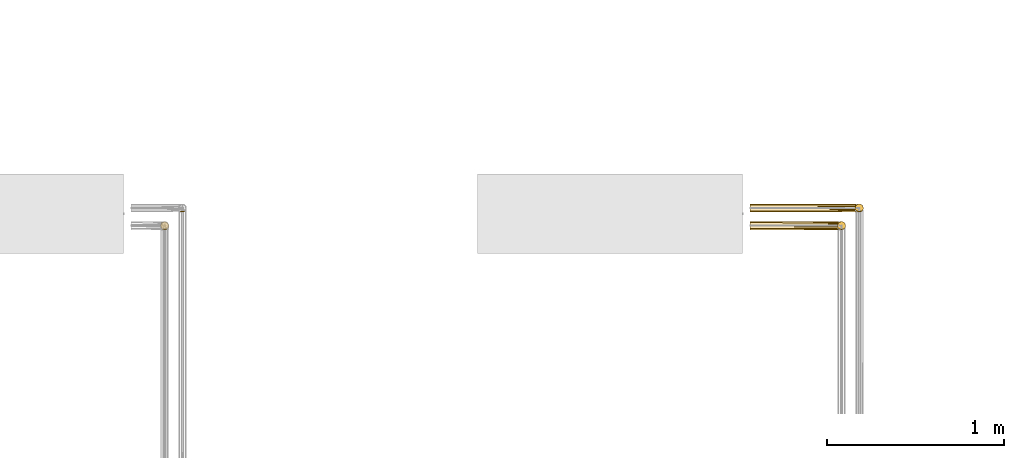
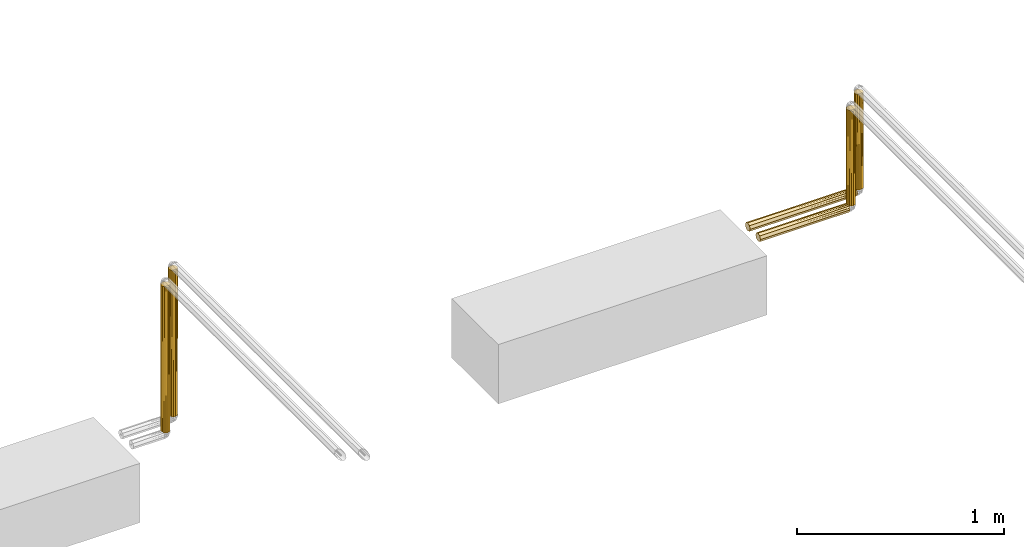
# One storey, part 226 of 652: 6 coverings.
"""IFC2X3 building model written with IfcOpenShell, lengths in millimetres."""

from ifc_helpers import new_model, entity, si_unit, converted_unit, direction, frame, origin, place, context, subcontext, project, spatial, faceted_brep, material, type_object, element, save


model = new_model("IFC2X3")

# Units and contexts
model_context = context("Model", 3, precision=0.01, world=frame((0.0, 0.0, 308426.39999999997)), true_north=direction((6.123233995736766e-17, 1.0)))
plan_context = context("Plan", 3, precision=0.01, world=frame((0.0, 0.0, 308426.39999999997)), true_north=direction((6.123233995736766e-17, 1.0)))
body_context = subcontext(model_context, "Body", "Model", "MODEL_VIEW")
ifc_project = project(units=[si_unit("LENGTHUNIT", "METRE", prefix="MILLI"), si_unit("AREAUNIT", "SQUARE_METRE"), si_unit("VOLUMEUNIT", "CUBIC_METRE"), converted_unit("PLANEANGLEUNIT", "DEGREE", entity("IfcPlaneAngleMeasure", 0.017453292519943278), si_unit("PLANEANGLEUNIT", "RADIAN"), dimensions=[0, 0, 0, 0, 0, 0, 0])], contexts=[model_context, plan_context])

# Site, building, storey
site_placement = place(None, origin())
site = spatial("IfcSite", under=ifc_project, at=site_placement, Name="Default", CompositionType="ELEMENT")
building_placement = place(site_placement, origin())
building = spatial("IfcBuilding", under=site, at=building_placement, CompositionType="ELEMENT")
storey_placement = place(building_placement, frame((0.0, 0.0, 1730.6999999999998)))
storey = spatial("IfcBuildingStorey", under=building, at=storey_placement, Name="EG_Produktion_FFB", CompositionType="ELEMENT", Elevation=1730.6999999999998)

# Coverings
ifc_material = material(Name="Dämmung - Armaflex-Schlauch")
covering_type = type_object("IfcCoveringType", Name="Rohrdämmung außen:Armaflex-Schlauch", PredefinedType="INSULATION")
covering_1_placement = place(storey_placement, frame((58641.246433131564, 79829.64488314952, 2674.6422277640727)))
element("IfcCovering", 1, at=covering_1_placement, inside=storey, type_object=covering_type, material=ifc_material, Name="Rohrdämmung außen:Armaflex-Schlauch", ObjectType="Rohrdämmung außen:Armaflex-Schlauch", PredefinedType="INSULATION", context=body_context, shape_type="Brep", body=[
    faceted_brep([(500.80331687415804, 25.35777223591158, 1.595272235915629), (500.80331687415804, 30.433998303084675, 3.697913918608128), (500.80331687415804, 33.759084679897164, 5.075209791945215), (500.80331687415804, 37.95974090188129, 6.815178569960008), (500.80331687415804, 42.160397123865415, 8.55514734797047), (500.80331687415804, 43.90036590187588, 12.75580356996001), (500.80331687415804, 45.64033467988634, 16.95645979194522), (500.80331687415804, 47.3803034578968, 21.15711601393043), (500.80331687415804, 49.12027223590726, 25.35777223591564), (500.80331687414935, 48.047093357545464, 30.292313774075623), (500.80331687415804, 46.97391447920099, 35.22685531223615), (500.80331687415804, 43.95116498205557, 39.26743877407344), (500.80331687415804, 40.92841548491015, 43.308022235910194), (500.80331687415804, 9.787128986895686, 43.30802223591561), (500.80331687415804, 6.764379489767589, 39.26743877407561), (500.80331687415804, 3.7416299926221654, 35.22685531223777), (500.80331687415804, 2.6684511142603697, 30.292313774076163), (500.80331687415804, 1.5952722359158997, 25.35777223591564), (500.8033168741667, 3.3352410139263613, 21.15711601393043), (500.80331687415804, 5.075209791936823, 16.95645979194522), (500.8033168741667, 6.815178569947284, 12.75580356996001), (500.80331687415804, 8.555147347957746, 8.55514734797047), (500.80331687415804, 12.755803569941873, 6.815178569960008), (500.80331687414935, 16.956459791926, 5.075209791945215), (500.80331687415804, 21.157116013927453, 3.335241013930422), (0.0, 37.95974090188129, 6.8151785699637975), (0.0, 33.759084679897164, 5.075209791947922), (0.0, 29.558428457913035, 3.335241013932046), (0.0, 25.35777223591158, 1.595272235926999), (0.0, 20.281546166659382, 3.6979139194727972), (0.0, 15.205320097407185, 5.800555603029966), (0.0, 8.555147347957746, 8.555147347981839), (0.0, 6.815178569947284, 12.75580356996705), (0.0, 5.075209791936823, 16.956459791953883), (0.0, 3.3352410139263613, 21.157116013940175), (0.0, 1.5952722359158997, 25.357772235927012), (0.0, 3.697913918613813, 30.43399830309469), (0.0, 5.075209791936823, 33.75908467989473), (0.0, 6.81517856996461, 37.95974090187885), (0.0, 8.555147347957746, 42.16039712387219), (0.0, 12.755803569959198, 43.90036590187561), (0.0, 16.956459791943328, 45.640334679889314), (0.0, 21.157116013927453, 47.380303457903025), (0.0, 25.35777223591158, 49.120272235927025), (0.0, 29.558428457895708, 47.380303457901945), (0.0, 33.759084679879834, 45.640334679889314), (0.0, 37.95974090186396, 43.90036590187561), (0.0, 42.160397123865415, 42.16039712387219), (0.0, 43.90036590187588, 37.95974090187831), (0.0, 45.64033467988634, 33.75908467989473), (0.0, 47.3803034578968, 29.558428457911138), (0.0, 49.12027223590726, 25.357772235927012), (0.0, 47.01763055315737, 20.281546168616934), (0.0, 44.91498887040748, 15.20532010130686), (0.0, 42.160397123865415, 8.555147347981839), (495.74128355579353, 29.512793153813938, 48.370055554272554), (498.6474085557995, 37.29811477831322, 45.46393055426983), (496.49150023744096, 33.66781407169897, 47.61983887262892), (494.99106687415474, 25.35777223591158, 49.12027223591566), (495.74128355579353, 21.202751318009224, 48.370055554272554), (496.49150023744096, 17.04773040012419, 47.61983887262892), (498.6474085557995, 13.41742969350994, 45.46393055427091)], [[[0, 1, 2, 3, 4, 5, 6, 7, 8, 9, 10, 11, 12, 13, 14, 15, 16, 17, 18, 19, 20, 21, 22, 23, 24]], [[25, 26, 27, 28, 29, 30, 31, 32, 33, 34, 35, 36, 37, 38, 39, 40, 41, 42, 43, 44, 45, 46, 47, 48, 49, 50, 51, 52, 53, 54]], [[33, 32, 31, 21, 20, 19, 18, 17, 35, 34]], [[31, 30, 29, 28, 0, 24, 23, 22, 21]], [[51, 8, 7, 6, 5, 4, 54, 53, 52]], [[3, 2, 1, 0, 28, 27, 26, 25, 54, 4]], [[11, 48, 47]], [[51, 50, 8]], [[49, 10, 9]], [[49, 48, 10]], [[43, 55, 44]], [[12, 46, 56]], [[57, 45, 44]], [[9, 50, 49]], [[45, 57, 56]], [[10, 48, 11]], [[55, 57, 44]], [[8, 50, 9]], [[47, 12, 11]], [[58, 55, 43]], [[46, 12, 47]], [[46, 45, 56]], [[43, 59, 58]], [[16, 37, 36, 35]], [[59, 43, 42]], [[60, 41, 61]], [[14, 39, 38]], [[39, 14, 13]], [[37, 16, 15]], [[13, 40, 39]], [[41, 60, 42]], [[13, 61, 40]], [[38, 15, 14]], [[38, 37, 15]], [[42, 60, 59]], [[35, 17, 16]], [[61, 41, 40]], [[60, 61, 13, 12, 56, 57, 55, 58, 59]]]),
])
covering_2_placement = place(storey_placement, frame((58641.24643313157, 79929.64488314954, 2725.357772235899)))
element("IfcCovering", 2, at=covering_2_placement, inside=storey, type_object=covering_type, material=ifc_material, Name="Rohrdämmung außen:Armaflex-Schlauch", ObjectType="Rohrdämmung außen:Armaflex-Schlauch", PredefinedType="INSULATION", context=body_context, shape_type="Brep", body=[
    faceted_brep([(600.8033168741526, 25.35777223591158, -49.120272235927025), (600.8033168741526, 29.589091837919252, -47.36760227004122), (600.8033168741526, 33.759084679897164, -45.640334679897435), (600.8033168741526, 37.95974090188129, -43.900365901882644), (600.8033168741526, 42.160397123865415, -42.16039712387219), (600.8033168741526, 43.90036590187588, -37.95974090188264), (600.8033168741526, 45.64033467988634, -33.759084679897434), (600.8033168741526, 47.367602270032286, -29.589091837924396), (600.8033168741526, 49.12027223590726, -25.357772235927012), (600.8033168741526, 48.047093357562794, -20.42323069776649), (600.8033168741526, 46.97391447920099, -15.488689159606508), (600.8033168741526, 43.95116498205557, -11.448105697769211), (600.8033168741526, 40.92841548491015, -7.407522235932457), (600.8033168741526, 9.787128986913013, -7.407522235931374), (600.8033168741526, 6.764379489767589, -11.448105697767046), (600.8033168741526, 3.7416299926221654, -15.488689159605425), (600.8033168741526, 2.6684511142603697, -20.42323069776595), (600.8033168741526, 1.5952722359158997, -25.357772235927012), (600.8033168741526, 3.3352410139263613, -29.55842845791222), (600.8033168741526, 5.075209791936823, -33.759084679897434), (600.8033168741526, 6.815178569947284, -37.95974090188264), (600.8033168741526, 8.555147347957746, -42.16039712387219), (600.8033168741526, 12.755803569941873, -43.900365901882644), (600.8033168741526, 16.956459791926, -45.640334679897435), (600.8033168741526, 21.12645263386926, -47.36760227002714), (0.0, 37.95974090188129, -43.90036590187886), (0.0, 33.759084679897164, -45.64033467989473), (0.0, 29.558428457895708, -47.38030345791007), (0.0, 25.35777223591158, -49.12027223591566), (0.0, 21.12645263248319, -47.36760226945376), (0.0, 16.895133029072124, -45.614932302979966), (0.0, 12.725140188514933, -43.88766471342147), (0.0, 8.555147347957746, -42.16039712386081), (0.0, 6.815178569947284, -37.959740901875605), (0.0, 5.075209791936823, -33.759084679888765), (0.0, 3.3352410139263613, -29.558428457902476), (0.0, 1.5952722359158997, -25.35777223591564), (0.0, 3.3479422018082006, -21.126452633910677), (0.0, 5.075209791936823, -16.95645979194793), (0.0, 6.81517856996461, -12.7558035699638), (0.0, 8.555147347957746, -8.55514734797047), (0.0, 12.755803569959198, -6.815178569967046), (0.0, 16.956459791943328, -5.075209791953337), (0.0, 21.157116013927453, -3.3352410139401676), (0.0, 25.35777223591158, -1.595272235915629), (0.0, 29.558428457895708, -3.3352410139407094), (0.0, 33.759084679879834, -5.075209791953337), (0.0, 37.95974090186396, -6.815178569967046), (0.0, 42.160397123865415, -8.55514734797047), (0.0, 43.90036590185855, -12.755803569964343), (0.0, 45.64033467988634, -16.95645979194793), (0.0, 47.3803034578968, -21.157116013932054), (0.0, 49.12027223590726, -25.35777223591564), (0.0, 47.36760226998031, -29.58909183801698), (0.0, 45.614932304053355, -33.82041144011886), (0.0, 43.88766471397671, -37.99040428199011), (0.0, 42.160397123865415, -42.16039712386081), (595.7412835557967, 29.512793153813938, -2.3454889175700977), (598.6474085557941, 37.29811477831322, -5.2516139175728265), (596.4915002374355, 33.66781407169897, -3.095705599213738), (594.9910668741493, 25.35777223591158, -1.595272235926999), (595.7412835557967, 21.202751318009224, -2.3454889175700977), (596.4915002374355, 17.04773040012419, -3.095705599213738), (598.6474085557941, 13.41742969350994, -5.251613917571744)], [[[0, 1, 2, 3, 4, 5, 6, 7, 8, 9, 10, 11, 12, 13, 14, 15, 16, 17, 18, 19, 20, 21, 22, 23, 24]], [[25, 26, 27, 28, 29, 30, 31, 32, 33, 34, 35, 36, 37, 38, 39, 40, 41, 42, 43, 44, 45, 46, 47, 48, 49, 50, 51, 52, 53, 54, 55, 56]], [[34, 33, 32, 21, 20, 19, 18, 17, 36, 35]], [[21, 32, 31, 30, 29, 28, 0, 24, 23, 22]], [[0, 28, 27, 26, 25, 56, 4, 3, 2, 1]], [[4, 56, 55, 54, 53, 52, 8, 7, 6, 5]], [[11, 49, 48]], [[52, 51, 8]], [[50, 10, 9]], [[50, 49, 10]], [[44, 57, 45]], [[12, 47, 58]], [[59, 46, 45]], [[9, 51, 50]], [[46, 59, 58]], [[10, 49, 11]], [[57, 59, 45]], [[8, 51, 9]], [[48, 12, 11]], [[60, 57, 44]], [[47, 12, 48]], [[47, 46, 58]], [[44, 61, 60]], [[16, 38, 37]], [[61, 44, 43]], [[62, 42, 63]], [[14, 40, 39]], [[40, 14, 13]], [[38, 16, 15]], [[13, 41, 40]], [[42, 62, 43]], [[37, 17, 16]], [[13, 63, 41]], [[39, 15, 14]], [[39, 38, 15]], [[43, 62, 61]], [[37, 36, 17]], [[63, 42, 41]], [[62, 63, 13, 12, 58, 59, 57, 60, 61]]]),
])
covering_3_placement = place(storey_placement, frame((59134.6422277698, 79829.64488314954, 2716.3549777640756)))
element("IfcCovering", 3, at=covering_3_placement, inside=storey, type_object=covering_type, material=ifc_material, Name="Rohrdämmung außen:Armaflex-Schlauch", ObjectType="Rohrdämmung außen:Armaflex-Schlauch", PredefinedType="INSULATION", context=body_context, shape_type="Brep", body=[
    faceted_brep([(9.787128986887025, 7.407522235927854, 565.6947722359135), (40.92841548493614, 7.407522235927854, 565.6947722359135), (43.951164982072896, 11.44810569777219, 565.6947722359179), (46.973914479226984, 15.488689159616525, 565.6947722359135), (48.047093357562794, 20.42323069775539, 565.6947722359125), (49.12027223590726, 25.35777223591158, 565.6947722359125), (47.253562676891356, 29.86440777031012, 565.6947722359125), (45.64033467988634, 33.759084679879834, 565.6947722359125), (43.90036590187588, 37.95974090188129, 565.6947722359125), (42.160397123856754, 42.160397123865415, 565.6947722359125), (37.95974090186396, 43.90036590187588, 565.6947722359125), (33.759084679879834, 45.64033467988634, 565.6947722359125), (29.86440777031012, 47.253562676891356, 565.6947722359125), (25.35777223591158, 49.12027223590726, 565.6947722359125), (21.157116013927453, 47.3803034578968, 565.6947722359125), (16.956459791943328, 45.64033467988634, 565.6947722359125), (12.755803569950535, 43.90036590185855, 565.6947722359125), (8.55514734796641, 42.160397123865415, 565.6947722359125), (6.815178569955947, 37.95974090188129, 565.6947722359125), (5.075209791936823, 33.759084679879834, 565.6947722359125), (3.3352410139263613, 29.558428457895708, 565.6947722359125), (1.5952722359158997, 25.35777223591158, 565.6947722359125), (2.6684511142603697, 20.42323069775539, 565.6947722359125), (3.741629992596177, 15.488689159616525, 565.6947722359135), (6.7643794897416, 11.44810569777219, 565.6947722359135), (25.35777223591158, 1.5952722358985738, 1.5952722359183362), (20.423230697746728, 2.6684511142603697, 1.5952722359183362), (15.488689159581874, 3.7416299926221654, 1.5952722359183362), (11.4481056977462, 6.764379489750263, 1.5952722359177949), (7.407522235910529, 9.787128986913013, 1.5952722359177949), (7.407522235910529, 40.928415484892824, 1.5952722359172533), (11.4481056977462, 43.95116498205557, 1.5952722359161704), (15.488689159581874, 46.97391447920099, 1.595272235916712), (20.423230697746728, 48.047093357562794, 1.595272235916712), (25.35777223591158, 49.120272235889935, 1.595272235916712), (29.864407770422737, 47.25356267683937, 1.595272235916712), (34.37104330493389, 45.38685311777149, 1.595272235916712), (38.26572021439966, 43.77362512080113, 1.595272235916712), (42.160397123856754, 42.16039712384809, 1.595272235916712), (43.90036590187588, 37.95974090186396, 1.595272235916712), (45.64033467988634, 33.759084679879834, 1.595272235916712), (47.3803034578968, 29.55842845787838, 1.595272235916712), (49.12027223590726, 25.357772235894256, 1.5952722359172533), (47.253562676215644, 20.85113669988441, 1.5952722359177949), (45.640334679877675, 16.956459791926, 1.5952722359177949), (43.90036590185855, 12.755803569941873, 1.5952722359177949), (42.160397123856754, 8.55514734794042, 1.5952722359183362), (37.95974090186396, 6.815178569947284, 1.5952722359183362), (33.759084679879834, 5.075209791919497, 1.5952722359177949), (29.558428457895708, 3.3352410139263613, 1.5952722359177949), (29.512793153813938, 2.345488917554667, 560.6327389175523), (25.35777223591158, 1.5952722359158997, 559.8825222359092), (33.66781407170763, 3.095705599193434, 561.3829555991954), (37.29811477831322, 5.251613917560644, 563.5388639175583), (5.251613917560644, 37.2981147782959, 3.751180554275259), (3.095705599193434, 33.66781407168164, 5.907088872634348), (2.345488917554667, 29.51279315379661, 6.657305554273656), (1.5952722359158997, 25.357772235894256, 7.407522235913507), (5.251613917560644, 13.417429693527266, 3.7511805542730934), (3.095705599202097, 17.04773040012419, 5.907088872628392), (2.479961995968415, 20.457981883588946, 6.522832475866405), (21.202751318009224, 2.345488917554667, 560.6327389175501), (17.04773040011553, 3.09570559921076, 561.3829555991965), (13.417429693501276, 5.251613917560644, 563.538863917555)], [[[0, 1, 2, 3, 4, 5, 6, 7, 8, 9, 10, 11, 12, 13, 14, 15, 16, 17, 18, 19, 20, 21, 22, 23, 24]], [[25, 26, 27, 28, 29, 30, 31, 32, 33, 34, 35, 36, 37, 38, 39, 40, 41, 42, 43, 44, 45, 46, 47, 48, 49]], [[46, 2, 1]], [[25, 50, 51]], [[50, 25, 49]], [[52, 48, 53]], [[4, 44, 43]], [[2, 46, 45]], [[44, 4, 3]], [[1, 53, 47]], [[49, 52, 50]], [[43, 5, 4]], [[48, 52, 49]], [[45, 3, 2]], [[1, 47, 46]], [[45, 44, 3]], [[43, 42, 5]], [[53, 48, 47]], [[5, 42, 41, 40, 39, 38, 9, 8, 7, 6]], [[9, 38, 37, 36, 35, 34, 13, 12, 11, 10]], [[34, 14, 13]], [[18, 30, 54]], [[17, 31, 30]], [[33, 15, 14]], [[16, 32, 31]], [[17, 30, 18]], [[54, 55, 19]], [[56, 57, 21]], [[33, 32, 15]], [[54, 19, 18]], [[31, 17, 16]], [[20, 55, 56]], [[16, 15, 32]], [[14, 34, 33]], [[19, 55, 20]], [[56, 21, 20]], [[58, 29, 24]], [[59, 22, 60]], [[21, 57, 60]], [[22, 59, 23]], [[21, 60, 22]], [[58, 24, 23]], [[25, 51, 61]], [[26, 62, 27]], [[23, 59, 58]], [[63, 0, 28]], [[61, 62, 26]], [[27, 62, 63]], [[29, 0, 24]], [[27, 63, 28]], [[0, 29, 28]], [[25, 61, 26]], [[1, 0, 63, 62, 61, 51, 50, 52, 53]], [[56, 55, 54, 30, 29, 58, 59, 60, 57]]]),
])
covering_4_placement = place(storey_placement, frame((59234.64222776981, 79929.64488314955, 2716.354977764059)))
element("IfcCovering", 4, at=covering_4_placement, inside=storey, type_object=covering_type, material=ifc_material, Name="Rohrdämmung außen:Armaflex-Schlauch", ObjectType="Rohrdämmung außen:Armaflex-Schlauch", PredefinedType="INSULATION", context=body_context, shape_type="Brep", body=[
    faceted_brep([(48.047093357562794, 20.42323069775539, 565.6947722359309), (49.12027223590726, 25.35777223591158, 565.6947722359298), (47.253562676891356, 29.86440777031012, 565.6947722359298), (45.640334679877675, 33.759084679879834, 565.6947722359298), (43.90036590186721, 37.95974090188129, 565.6947722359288), (42.160397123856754, 42.160397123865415, 565.6947722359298), (37.95974090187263, 43.90036590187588, 565.6947722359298), (33.759084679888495, 45.64033467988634, 565.6947722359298), (29.864407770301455, 47.253562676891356, 565.6947722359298), (25.35777223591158, 49.12027223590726, 565.6947722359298), (21.15711601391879, 47.3803034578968, 565.6947722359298), (16.956459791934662, 45.64033467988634, 565.6947722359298), (12.755803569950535, 43.90036590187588, 565.6947722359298), (8.55514734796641, 42.160397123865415, 565.6947722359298), (6.815178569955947, 37.95974090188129, 565.6947722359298), (5.075209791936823, 33.759084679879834, 565.6947722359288), (3.3352410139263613, 29.558428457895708, 565.6947722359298), (1.5952722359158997, 25.35777223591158, 565.6947722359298), (2.6684511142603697, 20.42323069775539, 565.6947722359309), (3.741629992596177, 15.488689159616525, 565.6947722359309), (6.764379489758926, 11.44810569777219, 565.6947722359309), (9.787128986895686, 7.407522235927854, 565.6947722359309), (40.92841548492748, 7.407522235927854, 565.6947722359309), (43.951164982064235, 11.44810569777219, 565.6947722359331), (46.973914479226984, 15.488689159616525, 565.6947722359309), (25.35777223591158, 1.5952722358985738, 1.5952722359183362), (20.423230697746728, 2.6684511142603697, 1.5952722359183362), (15.488689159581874, 3.7416299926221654, 1.5952722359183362), (11.4481056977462, 6.764379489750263, 1.5952722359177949), (7.407522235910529, 9.787128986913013, 1.5952722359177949), (7.407522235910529, 40.928415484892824, 1.5952722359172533), (11.4481056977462, 43.951164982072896, 1.5952722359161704), (15.488689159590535, 46.97391447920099, 1.595272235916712), (20.423230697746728, 48.047093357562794, 1.595272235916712), (25.35777223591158, 49.120272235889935, 1.595272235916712), (29.8644077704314, 47.25356267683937, 1.595272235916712), (34.37104330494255, 45.38685311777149, 1.595272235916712), (38.26572021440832, 43.77362512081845, 1.595272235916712), (42.160397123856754, 42.16039712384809, 1.595272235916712), (43.90036590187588, 37.95974090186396, 1.595272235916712), (45.64033467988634, 33.759084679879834, 1.595272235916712), (47.38030345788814, 29.55842845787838, 1.595272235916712), (49.12027223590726, 25.357772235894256, 1.5952722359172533), (47.25356267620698, 20.85113669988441, 1.5952722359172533), (45.640334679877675, 16.956459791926, 1.5952722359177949), (43.90036590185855, 12.755803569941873, 1.5952722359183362), (42.160397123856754, 8.55514734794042, 1.5952722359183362), (37.95974090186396, 6.815178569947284, 1.5952722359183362), (33.75908467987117, 5.075209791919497, 1.5952722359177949), (29.558428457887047, 3.335241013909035, 1.5952722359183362), (29.512793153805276, 2.345488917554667, 560.6327389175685), (25.35777223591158, 1.5952722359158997, 559.8825222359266), (33.66781407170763, 3.095705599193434, 561.3829555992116), (37.29811477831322, 5.251613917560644, 563.5388639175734), (5.251613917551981, 37.2981147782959, 3.751180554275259), (3.095705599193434, 33.66781407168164, 5.907088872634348), (2.345488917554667, 29.51279315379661, 6.657305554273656), (1.5952722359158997, 25.357772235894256, 7.407522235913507), (5.251613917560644, 13.417429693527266, 3.7511805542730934), (3.095705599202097, 17.04773040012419, 5.907088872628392), (2.4799619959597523, 20.457981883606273, 6.522832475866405), (21.202751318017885, 2.345488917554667, 560.6327389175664), (17.04773040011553, 3.095705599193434, 561.3829555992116), (13.41742969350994, 5.251613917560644, 563.5388639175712)], [[[0, 1, 2, 3, 4, 5, 6, 7, 8, 9, 10, 11, 12, 13, 14, 15, 16, 17, 18, 19, 20, 21, 22, 23, 24]], [[25, 26, 27, 28, 29, 30, 31, 32, 33, 34, 35, 36, 37, 38, 39, 40, 41, 42, 43, 44, 45, 46, 47, 48, 49]], [[46, 23, 22]], [[25, 50, 51]], [[50, 25, 49]], [[52, 48, 53]], [[0, 44, 43]], [[23, 46, 45]], [[44, 0, 24]], [[22, 53, 47]], [[49, 52, 50]], [[43, 1, 0]], [[48, 52, 49]], [[45, 24, 23]], [[22, 47, 46]], [[45, 44, 24]], [[43, 42, 1]], [[53, 48, 47]], [[1, 42, 41, 40, 39, 38, 5, 4, 3, 2]], [[5, 38, 37, 36, 35, 34, 9, 8, 7, 6]], [[34, 10, 9]], [[14, 30, 54]], [[13, 31, 30]], [[33, 11, 10]], [[12, 32, 31]], [[13, 30, 14]], [[54, 55, 15]], [[56, 57, 17]], [[33, 32, 11]], [[54, 15, 14]], [[31, 13, 12]], [[16, 55, 56]], [[12, 11, 32]], [[10, 34, 33]], [[15, 55, 16]], [[56, 17, 16]], [[58, 29, 20]], [[59, 18, 60]], [[17, 57, 60]], [[18, 59, 19]], [[17, 60, 18]], [[58, 20, 19]], [[25, 51, 61]], [[26, 62, 27]], [[19, 59, 58]], [[63, 21, 28]], [[61, 62, 26]], [[27, 62, 63]], [[29, 21, 20]], [[27, 63, 28]], [[21, 29, 28]], [[25, 61, 26]], [[52, 53, 22, 21, 63, 62, 61, 51, 50]], [[56, 55, 54, 30, 29, 58, 59, 60, 57]]]),
])
covering_5_placement = place(storey_placement, frame((55306.95466089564, 79829.64488314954, 2716.3549777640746)))
element("IfcCovering", 5, at=covering_5_placement, inside=storey, type_object=covering_type, material=ifc_material, Name="Rohrdämmung außen:Armaflex-Schlauch", ObjectType="Rohrdämmung außen:Armaflex-Schlauch", PredefinedType="INSULATION", context=body_context, shape_type="Brep", body=[
    faceted_brep([(25.357772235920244, 1.5952722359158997, 1.595272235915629), (20.42323069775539, 2.6684511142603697, 1.595272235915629), (15.488689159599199, 3.7416299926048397, 1.595272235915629), (11.448105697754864, 6.764379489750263, 1.595272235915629), (7.407522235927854, 9.787128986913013, 1.595272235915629), (7.407522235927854, 40.92841548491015, 1.595272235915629), (11.448105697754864, 43.951164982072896, 1.595272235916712), (15.488689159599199, 46.97391447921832, 1.595272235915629), (20.42323069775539, 48.047093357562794, 1.595272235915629), (25.357772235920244, 49.12027223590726, 1.595272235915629), (31.24179566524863, 46.68302993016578, 1.595272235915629), (33.759084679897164, 45.64033467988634, 1.595272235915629), (37.95974090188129, 43.90036590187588, 1.595272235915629), (42.160397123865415, 42.160397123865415, 1.595272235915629), (43.90036590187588, 37.95974090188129, 1.595272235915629), (45.640334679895, 33.759084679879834, 1.595272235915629), (47.38030345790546, 29.558428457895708, 1.595272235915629), (49.12027223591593, 25.35777223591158, 1.595272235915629), (47.38030345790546, 21.157116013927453, 1.595272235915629), (45.64033467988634, 16.956459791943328, 1.595272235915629), (43.90036590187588, 12.755803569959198, 1.595272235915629), (42.160397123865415, 8.555147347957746, 1.595272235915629), (37.95974090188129, 6.815178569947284, 1.595272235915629), (33.759084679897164, 5.075209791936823, 1.595272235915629), (29.55842845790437, 3.335241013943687, 1.595272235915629), (9.78712898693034, 7.407522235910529, 865.6947722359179), (40.92841548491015, 7.407522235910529, 865.6947722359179), (43.95116498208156, 11.44810569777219, 865.694772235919), (46.973914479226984, 15.488689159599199, 865.6947722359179), (48.04709335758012, 20.42323069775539, 865.6947722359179), (49.12027223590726, 25.35777223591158, 865.6947722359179), (46.68302993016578, 31.24179566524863, 865.6947722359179), (44.245787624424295, 37.12581909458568, 865.694772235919), (42.160397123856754, 42.160397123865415, 865.6947722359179), (37.95974090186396, 43.90036590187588, 865.6947722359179), (33.759084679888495, 45.64033467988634, 865.694772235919), (29.55842845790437, 47.3803034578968, 865.6947722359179), (25.35777223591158, 49.12027223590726, 865.6947722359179), (19.47374880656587, 46.68302993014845, 865.6947722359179), (16.956459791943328, 45.64033467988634, 865.6947722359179), (12.755803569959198, 43.90036590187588, 865.6947722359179), (8.55514734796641, 42.160397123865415, 865.6947722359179), (6.81517856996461, 37.95974090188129, 865.6947722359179), (5.075209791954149, 33.759084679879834, 865.6947722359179), (3.335241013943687, 29.558428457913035, 865.694772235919), (1.5952722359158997, 25.35777223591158, 865.6947722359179), (2.6684511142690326, 20.42323069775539, 865.6947722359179), (3.7416299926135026, 15.488689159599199, 865.6947722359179), (6.764379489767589, 11.448105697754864, 865.6947722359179), (33.66781407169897, 3.095705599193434, 861.382955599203), (37.29811477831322, 5.251613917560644, 863.5388639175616), (29.512793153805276, 2.345488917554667, 860.6327389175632), (25.35777223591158, 1.5952722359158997, 859.8825222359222), (13.417429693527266, 5.251613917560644, 863.5388639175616), (17.047730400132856, 3.095705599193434, 861.3829555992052), (22.159095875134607, 2.17281454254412, 860.4600645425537), (1.5952722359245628, 25.35777223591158, 7.407522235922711), (2.3454889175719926, 21.20275131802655, 6.657305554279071), (3.09570559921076, 17.04773040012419, 5.9070888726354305), (5.2516139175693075, 13.417429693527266, 3.751180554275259), (2.3454889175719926, 29.51279315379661, 6.657305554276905), (3.09570559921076, 33.66781407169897, 5.9070888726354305), (5.2516139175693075, 37.2981147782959, 3.751180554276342)], [[[0, 1, 2, 3, 4, 5, 6, 7, 8, 9, 10, 11, 12, 13, 14, 15, 16, 17, 18, 19, 20, 21, 22, 23, 24]], [[25, 26, 27, 28, 29, 30, 31, 32, 33, 34, 35, 36, 37, 38, 39, 40, 41, 42, 43, 44, 45, 46, 47, 48]], [[30, 18, 17]], [[23, 49, 24]], [[18, 30, 29]], [[29, 19, 18]], [[26, 21, 27]], [[22, 26, 50]], [[50, 49, 23]], [[51, 52, 0]], [[28, 27, 20]], [[27, 21, 20]], [[28, 20, 19]], [[24, 49, 51]], [[21, 26, 22]], [[29, 28, 19]], [[50, 23, 22]], [[51, 0, 24]], [[53, 25, 3]], [[54, 1, 55]], [[0, 52, 55]], [[1, 54, 2]], [[0, 55, 1]], [[53, 3, 2]], [[45, 56, 57]], [[46, 58, 47]], [[2, 54, 53]], [[59, 4, 48]], [[57, 58, 46]], [[47, 58, 59]], [[25, 4, 3]], [[47, 59, 48]], [[4, 25, 48]], [[45, 57, 46]], [[45, 60, 56]], [[38, 7, 40, 39]], [[60, 45, 44]], [[61, 43, 62]], [[6, 41, 40]], [[41, 6, 5]], [[7, 38, 8]], [[5, 42, 41]], [[43, 61, 44]], [[37, 8, 38]], [[5, 62, 42]], [[40, 7, 6]], [[44, 61, 60]], [[37, 9, 8]], [[62, 43, 42]], [[15, 14, 13, 33, 32, 31, 30, 17, 16]], [[12, 11, 10, 9, 37, 36, 35, 34, 33, 13]], [[60, 61, 62, 5, 4, 59, 58, 57, 56]], [[49, 50, 26, 25, 53, 54, 55, 52, 51]]]),
])
covering_6_placement = place(storey_placement, frame((55406.95466089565, 79929.64488314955, 2716.3549777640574)))
element("IfcCovering", 6, at=covering_6_placement, inside=storey, type_object=covering_type, material=ifc_material, Name="Rohrdämmung außen:Armaflex-Schlauch", ObjectType="Rohrdämmung außen:Armaflex-Schlauch", PredefinedType="INSULATION", context=body_context, shape_type="Brep", body=[
    faceted_brep([(25.35777223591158, 1.5952722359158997, 1.595272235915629), (20.42323069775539, 2.6684511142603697, 1.595272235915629), (15.488689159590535, 3.7416299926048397, 1.595272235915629), (11.448105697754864, 6.764379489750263, 1.595272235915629), (7.407522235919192, 9.787128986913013, 1.595272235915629), (7.407522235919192, 40.92841548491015, 1.595272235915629), (11.448105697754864, 43.951164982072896, 1.595272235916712), (15.488689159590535, 46.97391447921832, 1.595272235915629), (20.42323069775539, 48.047093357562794, 1.595272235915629), (25.35777223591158, 49.12027223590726, 1.595272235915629), (31.241795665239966, 46.68302993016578, 1.595272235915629), (33.759084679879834, 45.64033467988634, 1.595272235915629), (37.95974090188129, 43.9003659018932, 1.595272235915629), (42.160397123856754, 42.160397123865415, 1.595272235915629), (43.90036590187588, 37.95974090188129, 1.595272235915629), (45.64033467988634, 33.759084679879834, 1.595272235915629), (47.3803034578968, 29.558428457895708, 1.595272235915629), (49.12027223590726, 25.35777223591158, 1.595272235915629), (47.3803034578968, 21.157116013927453, 1.595272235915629), (45.64033467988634, 16.956459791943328, 1.595272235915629), (43.90036590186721, 12.755803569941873, 1.595272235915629), (42.160397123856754, 8.555147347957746, 1.595272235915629), (37.95974090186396, 6.815178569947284, 1.595272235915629), (33.759084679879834, 5.075209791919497, 1.595272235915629), (29.558428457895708, 3.3352410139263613, 1.595272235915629), (9.787128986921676, 7.407522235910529, 865.6947722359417), (40.928415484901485, 7.407522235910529, 865.6947722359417), (43.951164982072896, 11.448105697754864, 865.6947722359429), (46.97391447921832, 15.488689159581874, 865.6947722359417), (48.047093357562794, 20.42323069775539, 865.6947722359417), (49.1202722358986, 25.35777223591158, 865.6947722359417), (46.68302993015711, 31.24179566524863, 865.6947722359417), (44.245787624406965, 37.12581909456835, 865.6947722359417), (42.16039712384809, 42.160397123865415, 865.6947722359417), (37.95974090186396, 43.90036590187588, 865.6947722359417), (33.759084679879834, 45.64033467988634, 865.6947722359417), (29.558428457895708, 47.3803034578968, 865.6947722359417), (25.357772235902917, 49.12027223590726, 865.6947722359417), (19.473748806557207, 46.68302993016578, 865.6947722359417), (16.956459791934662, 45.64033467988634, 865.6947722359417), (12.755803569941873, 43.90036590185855, 865.6947722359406), (8.555147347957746, 42.160397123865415, 865.6947722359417), (6.815178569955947, 37.95974090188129, 865.6947722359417), (5.075209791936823, 33.759084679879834, 865.6947722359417), (3.3352410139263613, 29.558428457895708, 865.6947722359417), (1.5952722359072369, 25.35777223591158, 865.6947722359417), (2.6684511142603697, 20.42323069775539, 865.6947722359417), (3.7416299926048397, 15.488689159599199, 865.6947722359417), (6.764379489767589, 11.448105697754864, 865.6947722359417), (33.66781407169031, 3.095705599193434, 861.3829555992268), (37.2981147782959, 5.251613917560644, 863.5388639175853), (29.51279315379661, 2.345488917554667, 860.632738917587), (25.357772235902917, 1.5952722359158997, 859.882522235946), (13.417429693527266, 5.251613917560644, 863.5388639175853), (17.04773040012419, 3.095705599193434, 861.3829555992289), (22.159095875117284, 2.17281454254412, 860.4600645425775), (1.5952722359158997, 25.35777223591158, 7.407522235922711), (2.345488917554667, 21.20275131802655, 6.657305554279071), (3.095705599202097, 17.04773040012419, 5.9070888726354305), (5.251613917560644, 13.417429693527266, 3.751180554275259), (2.345488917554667, 29.51279315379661, 6.657305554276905), (3.095705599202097, 33.66781407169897, 5.9070888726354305), (5.251613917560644, 37.2981147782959, 3.751180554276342)], [[[0, 1, 2, 3, 4, 5, 6, 7, 8, 9, 10, 11, 12, 13, 14, 15, 16, 17, 18, 19, 20, 21, 22, 23, 24]], [[25, 26, 27, 28, 29, 30, 31, 32, 33, 34, 35, 36, 37, 38, 39, 40, 41, 42, 43, 44, 45, 46, 47, 48]], [[30, 18, 17]], [[23, 49, 24]], [[18, 30, 29]], [[29, 19, 18]], [[26, 21, 27]], [[22, 26, 50]], [[50, 49, 23]], [[51, 52, 0]], [[28, 27, 20]], [[27, 21, 20]], [[28, 20, 19]], [[24, 49, 51]], [[21, 26, 22]], [[29, 28, 19]], [[50, 23, 22]], [[51, 0, 24]], [[53, 25, 3]], [[54, 1, 55]], [[0, 52, 55]], [[1, 54, 2]], [[0, 55, 1]], [[53, 3, 2]], [[45, 56, 57]], [[46, 58, 47]], [[2, 54, 53]], [[59, 4, 48]], [[57, 58, 46]], [[47, 58, 59]], [[25, 4, 3]], [[47, 59, 48]], [[4, 25, 48]], [[45, 57, 46]], [[45, 60, 56]], [[38, 7, 40, 39]], [[60, 45, 44]], [[61, 43, 62]], [[6, 41, 40]], [[41, 6, 5]], [[7, 38, 8]], [[5, 42, 41]], [[43, 61, 44]], [[37, 8, 38]], [[5, 62, 42]], [[40, 7, 6]], [[44, 61, 60]], [[37, 9, 8]], [[62, 43, 42]], [[15, 14, 13, 33, 32, 31, 30, 17, 16]], [[12, 11, 10, 9, 37, 36, 35, 34, 33, 13]], [[60, 61, 62, 5, 4, 59, 58, 57, 56]], [[49, 50, 26, 25, 53, 54, 55, 52, 51]]]),
])

save(model, "model.ifc")
